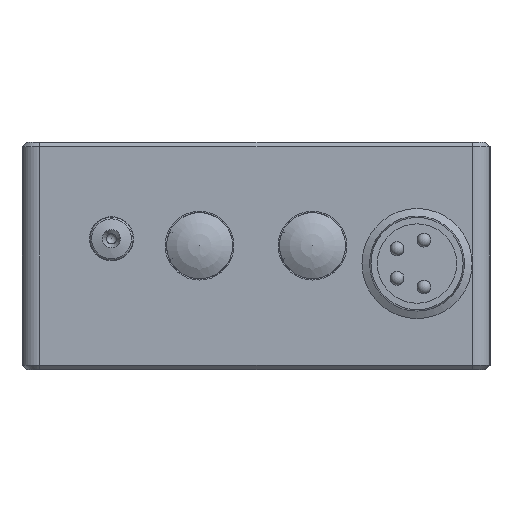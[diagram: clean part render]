
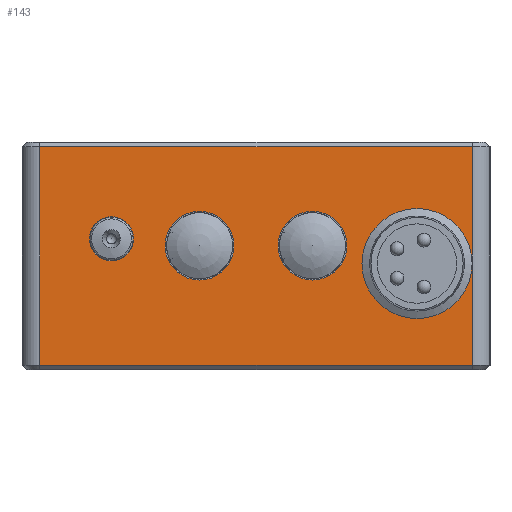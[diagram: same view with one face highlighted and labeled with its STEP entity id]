
A CAD part, left-side view. The second image highlights one B-rep face of the part: STEP entity #143.
In plain terms, the highlighted planar face has unit normal (-1, 0, 0).
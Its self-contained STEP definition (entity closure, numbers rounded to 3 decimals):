
#143 = ADVANCED_FACE( '', ( #395, #396, #397, #398, #399 ), #400, .T. );
#395 = FACE_BOUND( '', #836, .T. );
#396 = FACE_BOUND( '', #837, .T. );
#397 = FACE_BOUND( '', #838, .T. );
#398 = FACE_BOUND( '', #839, .T. );
#399 = FACE_OUTER_BOUND( '', #840, .T. );
#400 = PLANE( '', #841 );
#836 = EDGE_LOOP( '', ( #1618 ) );
#837 = EDGE_LOOP( '', ( #1619 ) );
#838 = EDGE_LOOP( '', ( #1620 ) );
#839 = EDGE_LOOP( '', ( #1621 ) );
#840 = EDGE_LOOP( '', ( #1622, #1623, #1624, #1625 ) );
#841 = AXIS2_PLACEMENT_3D( '', #1626, #1627, #1628 );
#1618 = ORIENTED_EDGE( '', *, *, #2578, .T. );
#1619 = ORIENTED_EDGE( '', *, *, #2585, .T. );
#1620 = ORIENTED_EDGE( '', *, *, #2658, .T. );
#1621 = ORIENTED_EDGE( '', *, *, #2592, .T. );
#1622 = ORIENTED_EDGE( '', *, *, #2659, .T. );
#1623 = ORIENTED_EDGE( '', *, *, #2660, .T. );
#1624 = ORIENTED_EDGE( '', *, *, #2661, .T. );
#1625 = ORIENTED_EDGE( '', *, *, #2662, .T. );
#1626 = CARTESIAN_POINT( '', ( -31., 17., 0. ) );
#1627 = DIRECTION( '', ( -1., 0., 0. ) );
#1628 = DIRECTION( '', ( 0., 0., 1. ) );
#2578 = EDGE_CURVE( '', #3529, #3529, #3530, .F. );
#2585 = EDGE_CURVE( '', #3542, #3542, #3543, .T. );
#2592 = EDGE_CURVE( '', #3555, #3555, #3556, .T. );
#2658 = EDGE_CURVE( '', #3667, #3667, #3668, .T. );
#2659 = EDGE_CURVE( '', #3669, #3670, #3671, .F. );
#2660 = EDGE_CURVE( '', #3670, #3672, #3673, .T. );
#2661 = EDGE_CURVE( '', #3672, #3674, #3675, .T. );
#2662 = EDGE_CURVE( '', #3674, #3669, #3676, .T. );
#3529 = VERTEX_POINT( '', #4268 );
#3530 = CIRCLE( '', #4269, 3.25 );
#3542 = VERTEX_POINT( '', #4282 );
#3543 = CIRCLE( '', #4283, 1.6 );
#3555 = VERTEX_POINT( '', #4298 );
#3556 = CIRCLE( '', #4299, 2.5 );
#3667 = VERTEX_POINT( '', #4447 );
#3668 = CIRCLE( '', #4448, 2.5 );
#3669 = VERTEX_POINT( '', #4449 );
#3670 = VERTEX_POINT( '', #4450 );
#3671 = LINE( '', #4451, #4452 );
#3672 = VERTEX_POINT( '', #4453 );
#3673 = LINE( '', #4454, #4455 );
#3674 = VERTEX_POINT( '', #4456 );
#3675 = LINE( '', #4457, #4458 );
#3676 = LINE( '', #4459, #4460 );
#4268 = CARTESIAN_POINT( '', ( -31., -11.7, 10.95 ) );
#4269 = AXIS2_PLACEMENT_3D( '', #5235, #5236, #5237 );
#4282 = CARTESIAN_POINT( '', ( -31., 10.5, 11.1 ) );
#4283 = AXIS2_PLACEMENT_3D( '', #5254, #5255, #5256 );
#4298 = CARTESIAN_POINT( '', ( -31., 4.1, 11.5 ) );
#4299 = AXIS2_PLACEMENT_3D( '', #5269, #5270, #5271 );
#4447 = CARTESIAN_POINT( '', ( -31., -4.1, 11.501 ) );
#4448 = AXIS2_PLACEMENT_3D( '', #5393, #5394, #5395 );
#4449 = CARTESIAN_POINT( '', ( -31., 15.7, 16.2 ) );
#4450 = CARTESIAN_POINT( '', ( -31., 15.7, 0.3 ) );
#4451 = CARTESIAN_POINT( '', ( -31., 15.7, 0. ) );
#4452 = VECTOR( '', #5396, 1000. );
#4453 = CARTESIAN_POINT( '', ( -31., -15.7, 0.3 ) );
#4454 = CARTESIAN_POINT( '', ( -31., -15.7, 0.3 ) );
#4455 = VECTOR( '', #5397, 1000. );
#4456 = CARTESIAN_POINT( '', ( -31., -15.7, 16.2 ) );
#4457 = CARTESIAN_POINT( '', ( -31., -15.7, 0. ) );
#4458 = VECTOR( '', #5398, 1000. );
#4459 = CARTESIAN_POINT( '', ( -31., 17., 16.2 ) );
#4460 = VECTOR( '', #5399, 1000. );
#5235 = CARTESIAN_POINT( '', ( -31., -11.7, 7.7 ) );
#5236 = DIRECTION( '', ( -1., 0., 0. ) );
#5237 = DIRECTION( '', ( 0., 0., 1. ) );
#5254 = CARTESIAN_POINT( '', ( -31., 10.5, 9.5 ) );
#5255 = DIRECTION( '', ( 1., 0., 0. ) );
#5256 = DIRECTION( '', ( 0., 0., 1. ) );
#5269 = CARTESIAN_POINT( '', ( -31., 4.1, 9. ) );
#5270 = DIRECTION( '', ( 1., 0., 0. ) );
#5271 = DIRECTION( '', ( 0., 0., 1. ) );
#5393 = CARTESIAN_POINT( '', ( -31., -4.1, 9.001 ) );
#5394 = DIRECTION( '', ( 1., 0., 0. ) );
#5395 = DIRECTION( '', ( 0., 0., 1. ) );
#5396 = DIRECTION( '', ( 0., 0., 1. ) );
#5397 = DIRECTION( '', ( 0., -1., 0. ) );
#5398 = DIRECTION( '', ( 0., 0., 1. ) );
#5399 = DIRECTION( '', ( 0., 1., 0. ) );
